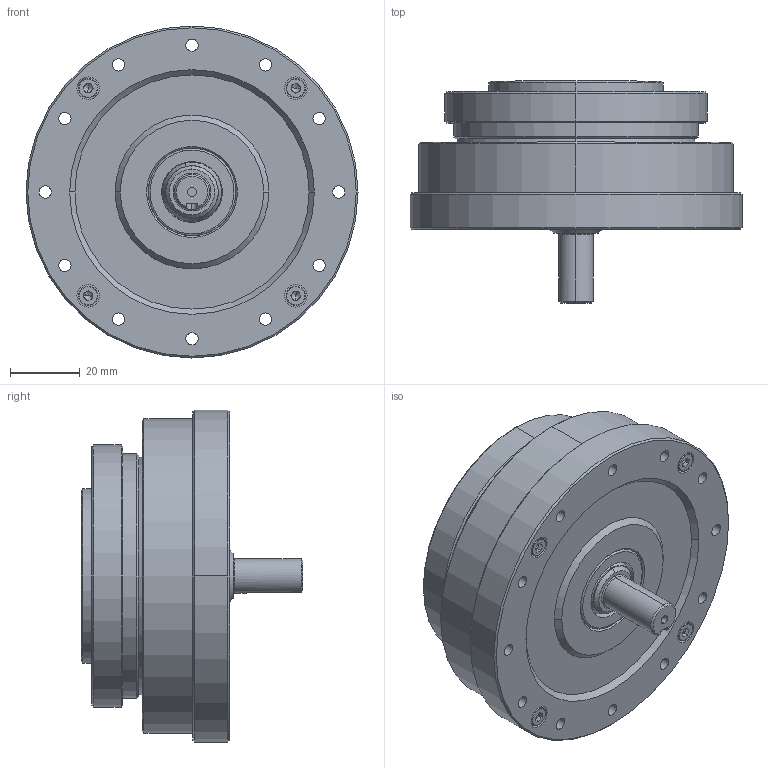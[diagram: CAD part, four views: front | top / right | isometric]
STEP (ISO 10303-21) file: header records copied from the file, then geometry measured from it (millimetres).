
FILE_DESCRIPTION (( 'STEP AP203' ), '1' );
FILE_NAME ('BHS-20-XXX-U-¢ô.STEP', '2019-01-15T03:56:21', ( 'User' ), ( 'China' ), 'SwSTEP 2.0', 'SolidWorks 2015', '' );
FILE_SCHEMA (( 'CONFIG_CONTROL_DESIGN' ));
Length unit declared in the file: millimetre
Products named in the file (1): BHS-20-XXX-U-ｌ
Bounding box: 95 x 63.5 x 95 mm (x, y, z)
Surface area: 36901.7 mm2 (no closed solid volume)
Topology: 0 solids, 19 shells, 284 faces, 789 edges, 498 vertices
Faces by surface type: cylinder 132, plane 82, cone 58, torus 12
Entity records: 9107 total; most frequent: DIRECTION 1737, CARTESIAN_POINT 1588, ORIENTED_EDGE 1305, EDGE_CURVE 773, AXIS2_PLACEMENT_3D 683, VERTEX_POINT 498, CIRCLE 398, LINE 371
